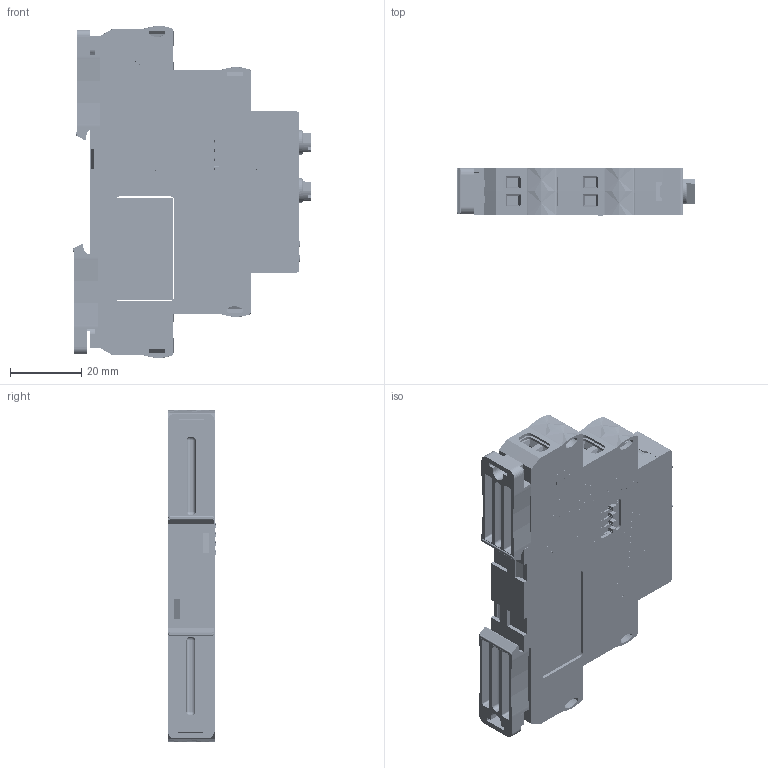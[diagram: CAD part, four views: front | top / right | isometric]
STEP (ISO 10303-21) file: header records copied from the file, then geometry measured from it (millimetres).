
FILE_DESCRIPTION(('STEP AP203'), '1');
FILE_NAME('ﾑ碚濱ﾐﾊﾒ-3', '', ('UNSPECIFIED'), ('UNSPECIFIED'), 'ASCON STEP Converter 1.6', 'ASCON Math Kernel', '');
FILE_SCHEMA(('CONFIG_CONTROL_DESIGN'));
Length unit declared in the file: millimetre
Products named in the file (21): Case13-18-23mm_2step_Half_v01a_Build20140909_1552_6.5mm; Case13-18-23mm_2step_Lock_v01a_Build20140909_1552; Case13_Face; R-knob_2017_Hex2mm__Џｮ гｬｮｫзｭЁо
Assembly tree (26 placements, depth 3):
  (unnamed)
    Case13-18-23mm_2step_Half_v01a_Build20140909_1552_6.5mm
    Case13-18-23mm_2step_Lock_v01a_Build20140909_1552  x2
    Case13-18-23mm_2step_Half_v01a_Build20140909_1552_6.5mm
    Case13_Face
    (unnamed)  x4
      (unnamed)
    (unnamed)
    (unnamed)
    (unnamed)
    (unnamed)
    R-knob_2017_Hex2mm__Џｮ гｬｮｫзｭЁо  x2
    (unnamed)
    (unnamed)
    (unnamed)
    (unnamed)
    (unnamed)
    (unnamed)
    (unnamed)
    (unnamed)
    (unnamed)
Bounding box: 66.8 x 13.6 x 92.99 mm (x, y, z)
Volume: 26389.3 mm3; surface area: 38112 mm2
Topology: 554 solids, 554 shells, 20197 faces, 56855 edges, 37770 vertices
Faces by surface type: plane 14073, extrusion 5548, cylinder 456, cone 42, sphere 40, torus 34, bspline 4
Full cylindrical faces by diameter (mm): 1.238 x8, 2.1 x2, 2.2 x2, 3.9 x8, 4.5 x2, 5 x2
Entity records: 817388 total; most frequent: CARTESIAN_POINT 166104, ORIENTED_EDGE 111004, DIRECTION 79100, EDGE_CURVE 55502, VECTOR 49040, LINE 43492, VERTEX_POINT 36945, EDGE_LOOP 20307
